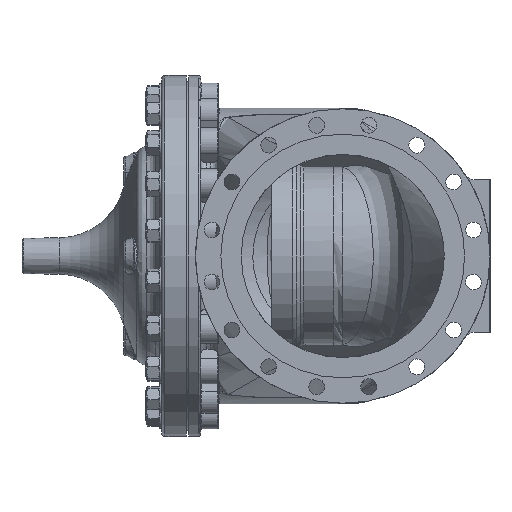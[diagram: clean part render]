
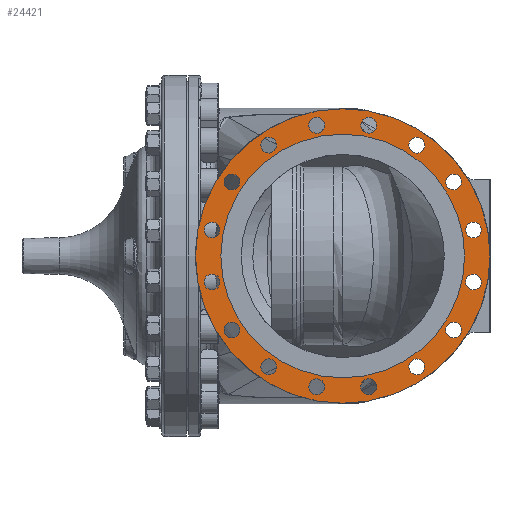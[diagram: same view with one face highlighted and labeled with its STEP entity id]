
A CAD part, left-side view. The second image highlights one B-rep face of the part: STEP entity #24421.
In plain terms, the highlighted planar face has unit normal (-1, 0, 0).
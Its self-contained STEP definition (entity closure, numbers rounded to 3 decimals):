
#4103=FACE_BOUND('',#5934,.T.);
#4104=FACE_BOUND('',#5935,.T.);
#4105=FACE_BOUND('',#5936,.T.);
#4106=FACE_BOUND('',#5937,.T.);
#4107=FACE_BOUND('',#5938,.T.);
#4108=FACE_BOUND('',#5939,.T.);
#4109=FACE_BOUND('',#5940,.T.);
#4110=FACE_BOUND('',#5941,.T.);
#4111=FACE_BOUND('',#5942,.T.);
#4112=FACE_BOUND('',#5943,.T.);
#4113=FACE_BOUND('',#5944,.T.);
#4114=FACE_BOUND('',#5945,.T.);
#4115=FACE_BOUND('',#5946,.T.);
#4116=FACE_BOUND('',#5947,.T.);
#4117=FACE_BOUND('',#5948,.T.);
#4118=FACE_BOUND('',#5949,.T.);
#4119=FACE_BOUND('',#5950,.T.);
#4286=FACE_OUTER_BOUND('',#5933,.T.);
#5933=EDGE_LOOP('',(#16197));
#5934=EDGE_LOOP('',(#16198));
#5935=EDGE_LOOP('',(#16199));
#5936=EDGE_LOOP('',(#16200));
#5937=EDGE_LOOP('',(#16201));
#5938=EDGE_LOOP('',(#16202));
#5939=EDGE_LOOP('',(#16203));
#5940=EDGE_LOOP('',(#16204));
#5941=EDGE_LOOP('',(#16205));
#5942=EDGE_LOOP('',(#16206));
#5943=EDGE_LOOP('',(#16207));
#5944=EDGE_LOOP('',(#16208));
#5945=EDGE_LOOP('',(#16209));
#5946=EDGE_LOOP('',(#16210));
#5947=EDGE_LOOP('',(#16211));
#5948=EDGE_LOOP('',(#16212));
#5949=EDGE_LOOP('',(#16213));
#5950=EDGE_LOOP('',(#16214));
#7658=CIRCLE('',#26054,15.5);
#7660=CIRCLE('',#26057,15.5);
#7662=CIRCLE('',#26060,15.5);
#7664=CIRCLE('',#26063,15.5);
#7666=CIRCLE('',#26066,15.5);
#7668=CIRCLE('',#26069,15.5);
#7670=CIRCLE('',#26072,15.5);
#7672=CIRCLE('',#26075,15.5);
#7674=CIRCLE('',#26078,15.5);
#7676=CIRCLE('',#26081,15.5);
#7678=CIRCLE('',#26084,15.5);
#7680=CIRCLE('',#26087,15.5);
#7682=CIRCLE('',#26090,15.5);
#7684=CIRCLE('',#26093,15.5);
#7686=CIRCLE('',#26096,15.5);
#7688=CIRCLE('',#26099,15.5);
#7731=CIRCLE('',#26170,290.);
#7732=CIRCLE('',#26171,240.);
#9524=VERTEX_POINT('',#37358);
#9526=VERTEX_POINT('',#37364);
#9528=VERTEX_POINT('',#37370);
#9530=VERTEX_POINT('',#37376);
#9532=VERTEX_POINT('',#37382);
#9534=VERTEX_POINT('',#37388);
#9536=VERTEX_POINT('',#37394);
#9538=VERTEX_POINT('',#37400);
#9540=VERTEX_POINT('',#37406);
#9542=VERTEX_POINT('',#37412);
#9544=VERTEX_POINT('',#37418);
#9546=VERTEX_POINT('',#37424);
#9548=VERTEX_POINT('',#37430);
#9550=VERTEX_POINT('',#37436);
#9552=VERTEX_POINT('',#37442);
#9554=VERTEX_POINT('',#37448);
#9624=VERTEX_POINT('',#38035);
#9625=VERTEX_POINT('',#38037);
#11992=EDGE_CURVE('',#9524,#9524,#7658,.T.);
#11995=EDGE_CURVE('',#9526,#9526,#7660,.T.);
#11998=EDGE_CURVE('',#9528,#9528,#7662,.T.);
#12001=EDGE_CURVE('',#9530,#9530,#7664,.T.);
#12004=EDGE_CURVE('',#9532,#9532,#7666,.T.);
#12007=EDGE_CURVE('',#9534,#9534,#7668,.T.);
#12010=EDGE_CURVE('',#9536,#9536,#7670,.T.);
#12013=EDGE_CURVE('',#9538,#9538,#7672,.T.);
#12016=EDGE_CURVE('',#9540,#9540,#7674,.T.);
#12019=EDGE_CURVE('',#9542,#9542,#7676,.T.);
#12022=EDGE_CURVE('',#9544,#9544,#7678,.T.);
#12025=EDGE_CURVE('',#9546,#9546,#7680,.T.);
#12028=EDGE_CURVE('',#9548,#9548,#7682,.T.);
#12031=EDGE_CURVE('',#9550,#9550,#7684,.T.);
#12034=EDGE_CURVE('',#9552,#9552,#7686,.T.);
#12037=EDGE_CURVE('',#9554,#9554,#7688,.T.);
#12130=EDGE_CURVE('',#9624,#9624,#7731,.T.);
#12131=EDGE_CURVE('',#9625,#9625,#7732,.T.);
#16197=ORIENTED_EDGE('',*,*,#12130,.F.);
#16198=ORIENTED_EDGE('',*,*,#11992,.T.);
#16199=ORIENTED_EDGE('',*,*,#11995,.T.);
#16200=ORIENTED_EDGE('',*,*,#11998,.T.);
#16201=ORIENTED_EDGE('',*,*,#12001,.T.);
#16202=ORIENTED_EDGE('',*,*,#12004,.T.);
#16203=ORIENTED_EDGE('',*,*,#12007,.T.);
#16204=ORIENTED_EDGE('',*,*,#12010,.T.);
#16205=ORIENTED_EDGE('',*,*,#12013,.T.);
#16206=ORIENTED_EDGE('',*,*,#12016,.T.);
#16207=ORIENTED_EDGE('',*,*,#12019,.T.);
#16208=ORIENTED_EDGE('',*,*,#12022,.T.);
#16209=ORIENTED_EDGE('',*,*,#12025,.T.);
#16210=ORIENTED_EDGE('',*,*,#12028,.T.);
#16211=ORIENTED_EDGE('',*,*,#12031,.T.);
#16212=ORIENTED_EDGE('',*,*,#12034,.T.);
#16213=ORIENTED_EDGE('',*,*,#12037,.T.);
#16214=ORIENTED_EDGE('',*,*,#12131,.F.);
#23940=PLANE('',#26169);
#24421=ADVANCED_FACE('',(#4286,#4103,#4104,#4105,#4106,#4107,#4108,#4109,
#4110,#4111,#4112,#4113,#4114,#4115,#4116,#4117,#4118,#4119),#23940,.F.);
#26054=AXIS2_PLACEMENT_3D('',#37359,#29340,#29341);
#26057=AXIS2_PLACEMENT_3D('',#37365,#29347,#29348);
#26060=AXIS2_PLACEMENT_3D('',#37371,#29354,#29355);
#26063=AXIS2_PLACEMENT_3D('',#37377,#29361,#29362);
#26066=AXIS2_PLACEMENT_3D('',#37383,#29368,#29369);
#26069=AXIS2_PLACEMENT_3D('',#37389,#29375,#29376);
#26072=AXIS2_PLACEMENT_3D('',#37395,#29382,#29383);
#26075=AXIS2_PLACEMENT_3D('',#37401,#29389,#29390);
#26078=AXIS2_PLACEMENT_3D('',#37407,#29396,#29397);
#26081=AXIS2_PLACEMENT_3D('',#37413,#29403,#29404);
#26084=AXIS2_PLACEMENT_3D('',#37419,#29410,#29411);
#26087=AXIS2_PLACEMENT_3D('',#37425,#29417,#29418);
#26090=AXIS2_PLACEMENT_3D('',#37431,#29424,#29425);
#26093=AXIS2_PLACEMENT_3D('',#37437,#29431,#29432);
#26096=AXIS2_PLACEMENT_3D('',#37443,#29438,#29439);
#26099=AXIS2_PLACEMENT_3D('',#37449,#29445,#29446);
#26169=AXIS2_PLACEMENT_3D('',#38034,#29606,#29607);
#26170=AXIS2_PLACEMENT_3D('',#38036,#29608,#29609);
#26171=AXIS2_PLACEMENT_3D('',#38038,#29610,#29611);
#29340=DIRECTION('center_axis',(1.,0.,0.));
#29341=DIRECTION('ref_axis',(0.,-0.383,-0.924));
#29347=DIRECTION('center_axis',(1.,0.,0.));
#29348=DIRECTION('ref_axis',(0.,-0.707,-0.707));
#29354=DIRECTION('center_axis',(1.,0.,0.));
#29355=DIRECTION('ref_axis',(0.,-0.924,-0.383));
#29361=DIRECTION('center_axis',(1.,0.,0.));
#29362=DIRECTION('ref_axis',(0.,-1.,0.));
#29368=DIRECTION('center_axis',(1.,0.,0.));
#29369=DIRECTION('ref_axis',(0.,-0.924,0.383));
#29375=DIRECTION('center_axis',(1.,0.,0.));
#29376=DIRECTION('ref_axis',(0.,-0.707,0.707));
#29382=DIRECTION('center_axis',(1.,0.,0.));
#29383=DIRECTION('ref_axis',(0.,-0.383,0.924));
#29389=DIRECTION('center_axis',(1.,0.,0.));
#29390=DIRECTION('ref_axis',(0.,0.,
1.));
#29396=DIRECTION('center_axis',(1.,0.,0.));
#29397=DIRECTION('ref_axis',(0.,0.383,0.924));
#29403=DIRECTION('center_axis',(1.,0.,0.));
#29404=DIRECTION('ref_axis',(0.,0.707,0.707));
#29410=DIRECTION('center_axis',(1.,0.,0.));
#29411=DIRECTION('ref_axis',(0.,0.924,0.383));
#29417=DIRECTION('center_axis',(1.,0.,0.));
#29418=DIRECTION('ref_axis',(0.,1.,0.));
#29424=DIRECTION('center_axis',(1.,0.,0.));
#29425=DIRECTION('ref_axis',(0.,0.924,-0.383));
#29431=DIRECTION('center_axis',(1.,0.,0.));
#29432=DIRECTION('ref_axis',(0.,0.707,-0.707));
#29438=DIRECTION('center_axis',(1.,0.,0.));
#29439=DIRECTION('ref_axis',(0.,0.383,-0.924));
#29445=DIRECTION('center_axis',(1.,0.,0.));
#29446=DIRECTION('ref_axis',(0.,0.,
-1.));
#29606=DIRECTION('center_axis',(1.,0.,0.));
#29607=DIRECTION('ref_axis',(0.,0.,
-1.));
#29608=DIRECTION('center_axis',(1.,0.,0.));
#29609=DIRECTION('ref_axis',(0.,0.,
-1.));
#29610=DIRECTION('center_axis',(-1.,0.,0.));
#29611=DIRECTION('ref_axis',(0.,0.,
-1.));
#37358=CARTESIAN_POINT('',(-546.,-479.881,232.581));
#37359=CARTESIAN_POINT('Origin',(-546.,-485.813,218.261));
#37364=CARTESIAN_POINT('',(-546.,-402.429,156.797));
#37365=CARTESIAN_POINT('Origin',(-546.,-413.389,145.837));
#37370=CARTESIAN_POINT('',(-546.,-359.874,57.143));
#37371=CARTESIAN_POINT('Origin',(-546.,-374.194,51.211));
#37376=CARTESIAN_POINT('',(-546.,-358.694,-51.211));
#37377=CARTESIAN_POINT('Origin',(-546.,-374.194,-51.211));
#37382=CARTESIAN_POINT('',(-546.,-399.069,-151.769));
#37383=CARTESIAN_POINT('Origin',(-546.,-413.389,-145.837));
#37388=CARTESIAN_POINT('',(-546.,-474.853,-229.221));
#37389=CARTESIAN_POINT('Origin',(-546.,-485.813,-218.261));
#37394=CARTESIAN_POINT('',(-546.,-574.507,-271.776));
#37395=CARTESIAN_POINT('Origin',(-546.,-580.439,-257.456));
#37400=CARTESIAN_POINT('',(-546.,-682.861,-272.956));
#37401=CARTESIAN_POINT('Origin',(-546.,-682.861,-257.456));
#37406=CARTESIAN_POINT('',(-546.,-783.419,-232.581));
#37407=CARTESIAN_POINT('Origin',(-546.,-777.487,-218.261));
#37412=CARTESIAN_POINT('',(-546.,-860.871,-156.797));
#37413=CARTESIAN_POINT('Origin',(-546.,-849.911,-145.837));
#37418=CARTESIAN_POINT('',(-546.,-903.426,-57.143));
#37419=CARTESIAN_POINT('Origin',(-546.,-889.106,-51.211));
#37424=CARTESIAN_POINT('',(-546.,-904.606,51.211));
#37425=CARTESIAN_POINT('Origin',(-546.,-889.106,51.211));
#37430=CARTESIAN_POINT('',(-546.,-864.231,151.769));
#37431=CARTESIAN_POINT('Origin',(-546.,-849.911,145.837));
#37436=CARTESIAN_POINT('',(-546.,-788.447,229.221));
#37437=CARTESIAN_POINT('Origin',(-546.,-777.487,218.261));
#37442=CARTESIAN_POINT('',(-546.,-688.793,271.776));
#37443=CARTESIAN_POINT('Origin',(-546.,-682.861,257.456));
#37448=CARTESIAN_POINT('',(-546.,-580.439,272.956));
#37449=CARTESIAN_POINT('Origin',(-546.,-580.439,257.456));
#38034=CARTESIAN_POINT('Origin',(-546.,-631.65,0.));
#38035=CARTESIAN_POINT('',(-546.,-631.65,290.));
#38036=CARTESIAN_POINT('Origin',(-546.,-631.65,0.));
#38037=CARTESIAN_POINT('',(-546.,-631.65,240.));
#38038=CARTESIAN_POINT('Origin',(-546.,-631.65,0.));
